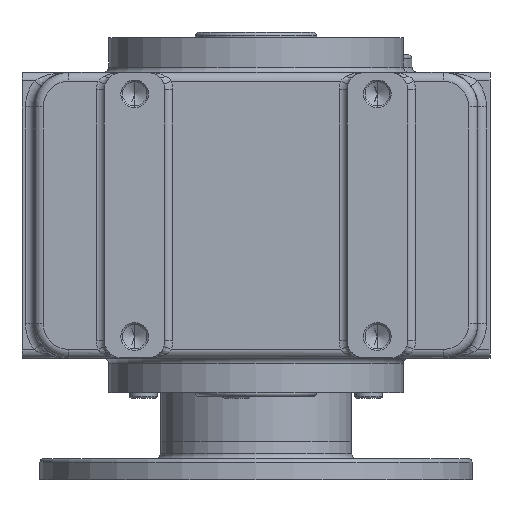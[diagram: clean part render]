
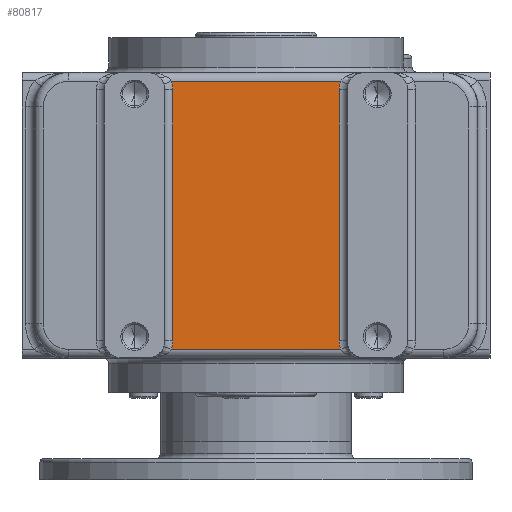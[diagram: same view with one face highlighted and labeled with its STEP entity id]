
A CAD part, front view. The second image highlights one B-rep face of the part: STEP entity #80817.
In plain terms, the highlighted planar face has unit normal (0, -1, 0).
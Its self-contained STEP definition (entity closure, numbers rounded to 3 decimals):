
#20977 = AXIS2_PLACEMENT_3D ( 'NONE', #21138, #21136, #21135 ) ;
#20979 = CIRCLE ( 'NONE', #20977, 14.556 ) ;
#20985 = CARTESIAN_POINT ( 'NONE',  ( -47.944, -120., 10.175 ) ) ;
#20988 = CARTESIAN_POINT ( 'NONE',  ( -47.944, -120., 154.825 ) ) ;
#20990 = DIRECTION ( 'NONE',  ( 0., 0., -1. ) ) ;
#20992 = VECTOR ( 'NONE', #20990, 1000. ) ;
#20994 = CARTESIAN_POINT ( 'NONE',  ( -47.944, -120., 10.175 ) ) ;
#20996 = LINE ( 'NONE', #20994, #20992 ) ;
#21000 = CARTESIAN_POINT ( 'NONE',  ( -48.845, -120., 159.869 ) ) ;
#21002 = DIRECTION ( 'NONE',  ( 0., 0., -1. ) ) ;
#21004 = DIRECTION ( 'NONE',  ( 0., 1., 0. ) ) ;
#21005 = CARTESIAN_POINT ( 'NONE',  ( -62.5, -120., 10.175 ) ) ;
#21007 = AXIS2_PLACEMENT_3D ( 'NONE', #21005, #21004, #21002 ) ;
#21008 = CIRCLE ( 'NONE', #21007, 14.556 ) ;
#21014 = CARTESIAN_POINT ( 'NONE',  ( 48.845, -120., 5.131 ) ) ;
#21099 = DIRECTION ( 'NONE',  ( 0., 0., -1. ) ) ;
#21101 = DIRECTION ( 'NONE',  ( 0., 1., 0. ) ) ;
#21103 = CARTESIAN_POINT ( 'NONE',  ( 62.5, -120., 154.825 ) ) ;
#21104 = AXIS2_PLACEMENT_3D ( 'NONE', #21103, #21101, #21099 ) ;
#21106 = CIRCLE ( 'NONE', #21104, 14.556 ) ;
#21108 = CARTESIAN_POINT ( 'NONE',  ( 48.845, -120., 159.869 ) ) ;
#21125 = DIRECTION ( 'NONE',  ( -1., 0., 0. ) ) ;
#21127 = VECTOR ( 'NONE', #21125, 1000. ) ;
#21129 = CARTESIAN_POINT ( 'NONE',  ( -62.5, -120., 159.869 ) ) ;
#21130 = LINE ( 'NONE', #21129, #21127 ) ;
#21135 = DIRECTION ( 'NONE',  ( 0., 0., -1. ) ) ;
#21136 = DIRECTION ( 'NONE',  ( 0., 1., 0. ) ) ;
#21138 = CARTESIAN_POINT ( 'NONE',  ( -62.5, -120., 154.825 ) ) ;
#21140 = DIRECTION ( 'NONE',  ( 0., 0., -1. ) ) ;
#21142 = DIRECTION ( 'NONE',  ( 0., 1., 0. ) ) ;
#21144 = CARTESIAN_POINT ( 'NONE',  ( 62.5, -120., 10.175 ) ) ;
#21145 = AXIS2_PLACEMENT_3D ( 'NONE', #21144, #21142, #21140 ) ;
#21147 = CIRCLE ( 'NONE', #21145, 14.556 ) ;
#21273 = DIRECTION ( 'NONE',  ( 1., 0., 0. ) ) ;
#21274 = VECTOR ( 'NONE', #21273, 1000. ) ;
#21276 = CARTESIAN_POINT ( 'NONE',  ( 62.5, -120., 5.131 ) ) ;
#21278 = LINE ( 'NONE', #21276, #21274 ) ;
#21399 = CARTESIAN_POINT ( 'NONE',  ( -48.845, -120., 5.131 ) ) ;
#24077 = CARTESIAN_POINT ( 'NONE',  ( 47.944, -120., 154.825 ) ) ;
#24085 = DIRECTION ( 'NONE',  ( 0., 0., -1. ) ) ;
#24087 = DIRECTION ( 'NONE',  ( 0., -1., 0. ) ) ;
#24088 = CARTESIAN_POINT ( 'NONE',  ( -108., -120., 145. ) ) ;
#24089 = AXIS2_PLACEMENT_3D ( 'NONE', #24088, #24087, #24085 ) ;
#24094 = PLANE ( 'NONE',  #24089 ) ;
#24097 = FACE_OUTER_BOUND ( 'NONE', #80819, .T. ) ;
#24119 = CARTESIAN_POINT ( 'NONE',  ( 47.944, -120., 10.175 ) ) ;
#24120 = DIRECTION ( 'NONE',  ( 0., 0., 1. ) ) ;
#24121 = VECTOR ( 'NONE', #24120, 1000. ) ;
#24122 = CARTESIAN_POINT ( 'NONE',  ( 47.944, -120., 154.825 ) ) ;
#24123 = LINE ( 'NONE', #24122, #24121 ) ;
#79629 = ORIENTED_EDGE ( 'NONE', *, *, #79687, .T. ) ;
#79640 = ORIENTED_EDGE ( 'NONE', *, *, #79691, .T. ) ;
#79645 = VERTEX_POINT ( 'NONE', #21014 ) ;
#79646 = EDGE_CURVE ( 'NONE', #79651, #79731, #21008, .T. ) ;
#79647 = VERTEX_POINT ( 'NONE', #21000 ) ;
#79648 = EDGE_CURVE ( 'NONE', #79650, #79651, #20996, .T. ) ;
#79650 = VERTEX_POINT ( 'NONE', #20988 ) ;
#79651 = VERTEX_POINT ( 'NONE', #20985 ) ;
#79652 = ORIENTED_EDGE ( 'NONE', *, *, #79648, .T. ) ;
#79653 = EDGE_CURVE ( 'NONE', #79647, #79650, #20979, .T. ) ;
#79654 = ORIENTED_EDGE ( 'NONE', *, *, #79653, .T. ) ;
#79656 = EDGE_CURVE ( 'NONE', #79660, #79647, #21130, .T. ) ;
#79659 = EDGE_CURVE ( 'NONE', #80823, #79660, #21106, .T. ) ;
#79660 = VERTEX_POINT ( 'NONE', #21108 ) ;
#79661 = ORIENTED_EDGE ( 'NONE', *, *, #79656, .T. ) ;
#79687 = EDGE_CURVE ( 'NONE', #79645, #80834, #21147, .T. ) ;
#79691 = EDGE_CURVE ( 'NONE', #79731, #79645, #21278, .T. ) ;
#79731 = VERTEX_POINT ( 'NONE', #21399 ) ;
#79740 = ORIENTED_EDGE ( 'NONE', *, *, #79646, .T. ) ;
#80817 = ADVANCED_FACE ( 'NONE', ( #24097 ), #24094, .T. ) ;
#80819 = EDGE_LOOP ( 'NONE', ( #80831, #80835, #79661, #79654, #79652, #79740, #79640, #79629 ) ) ;
#80823 = VERTEX_POINT ( 'NONE', #24077 ) ;
#80831 = ORIENTED_EDGE ( 'NONE', *, *, #80833, .T. ) ;
#80833 = EDGE_CURVE ( 'NONE', #80834, #80823, #24123, .T. ) ;
#80834 = VERTEX_POINT ( 'NONE', #24119 ) ;
#80835 = ORIENTED_EDGE ( 'NONE', *, *, #79659, .T. ) ;
